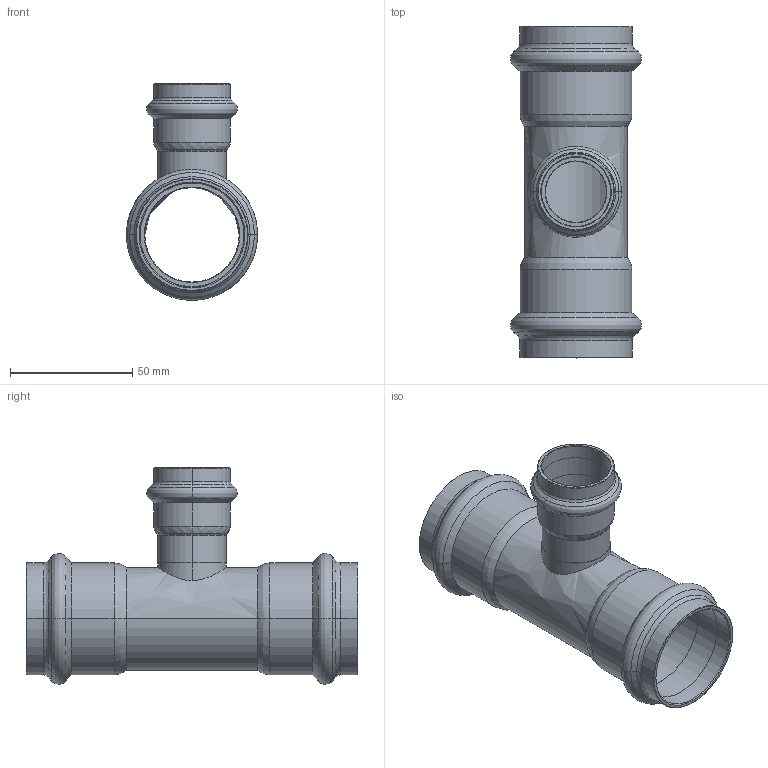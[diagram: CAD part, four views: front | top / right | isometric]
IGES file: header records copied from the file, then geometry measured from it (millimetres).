
Start section: Elysium IGES Interface
Global section: file name: C:\3d modellen sudo\C-Pr VP\SP8130RV\8130RVW422842.igs; native system: CoCreate Modeling 17.00A  17-Jun-2010; preprocessor: CoCreate IGES_3D V2.2; author: Unknown; organization: Unknown; date: 20130131.144347; units: millimetre
Bounding box: 53.61 x 135.73 x 88.63 mm (x, y, z)
Volume: 46141.2 mm3; surface area: 46423.7 mm2
Topology: 1 solids, 1 shells, 128 faces, 269 edges, 146 vertices
Faces by surface type: bspline 128
